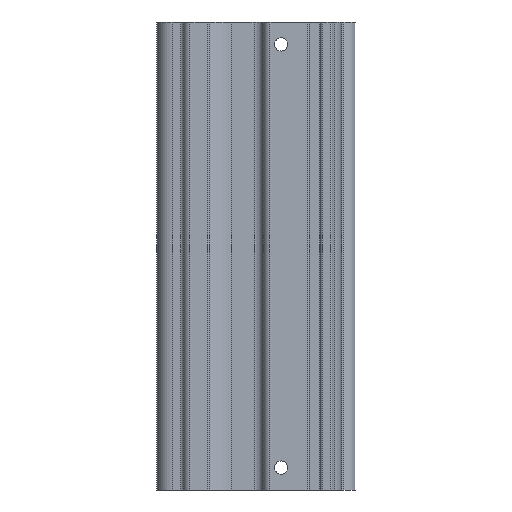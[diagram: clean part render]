
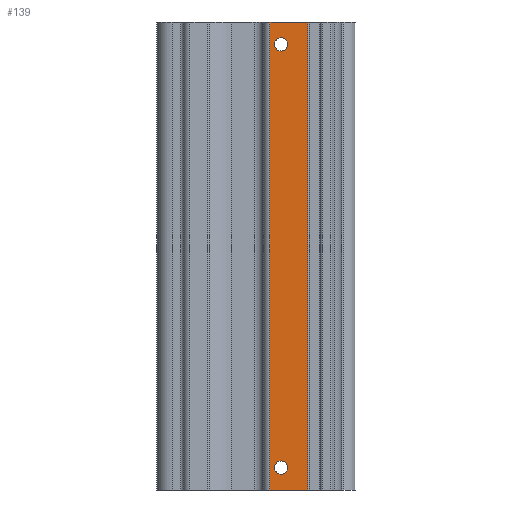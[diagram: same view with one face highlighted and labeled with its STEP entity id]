
A CAD part, front view. The second image highlights one B-rep face of the part: STEP entity #139.
In plain terms, the highlighted planar face has unit normal (0, -1, 0).
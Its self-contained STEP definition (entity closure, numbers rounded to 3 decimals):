
#139 = ADVANCED_FACE ( 'NONE', ( #13490, #13489, #13487 ), #669, .F. ) ;
#187 = EDGE_CURVE ( 'NONE', #7288, #7283, #9615, .T. ) ;
#202 = EDGE_CURVE ( 'NONE', #3918, #3918, #9646, .T. ) ;
#281 = EDGE_CURVE ( 'NONE', #3951, #3951, #6608, .T. ) ;
#296 = EDGE_CURVE ( 'NONE', #7288, #7205, #9581, .T. ) ;
#534 = EDGE_CURVE ( 'NONE', #7283, #7263, #8988, .T. ) ;
#656 = EDGE_CURVE ( 'NONE', #7263, #7205, #5781, .T. ) ;
#662 = CARTESIAN_POINT ( 'NONE',  ( -5.1, -17., -146.6 ) ) ;
#663 = DIRECTION ( 'NONE',  ( 0., 1., 0. ) ) ;
#669 = PLANE ( 'NONE',  #16281 ) ;
#794 = DIRECTION ( 'NONE',  ( 0., 0., 1. ) ) ;
#958 = DIRECTION ( 'NONE',  ( 0., 0., 1. ) ) ;
#959 = DIRECTION ( 'NONE',  ( 0., 1., 0. ) ) ;
#960 = CARTESIAN_POINT ( 'NONE',  ( 10., -17., -7. ) ) ;
#1373 = DIRECTION ( 'NONE',  ( 0., 0., 1. ) ) ;
#2099 = CARTESIAN_POINT ( 'NONE',  ( 18.4, -17., -146.6 ) ) ;
#2160 = EDGE_LOOP ( 'NONE', ( #4737, #4736, #4735, #4732 ) ) ;
#2399 = EDGE_LOOP ( 'NONE', ( #4739 ) ) ;
#2720 = EDGE_LOOP ( 'NONE', ( #4738 ) ) ;
#3408 = CARTESIAN_POINT ( 'NONE',  ( 10., -17., -139.6 ) ) ;
#3409 = DIRECTION ( 'NONE',  ( 0., 1., 0. ) ) ;
#3410 = DIRECTION ( 'NONE',  ( 0., 0., 1. ) ) ;
#3497 = CARTESIAN_POINT ( 'NONE',  ( -5.1, -17., -146.6 ) ) ;
#3498 = DIRECTION ( 'NONE',  ( -1., 0., 0. ) ) ;
#3918 = VERTEX_POINT ( 'NONE', #5438 ) ;
#3951 = VERTEX_POINT ( 'NONE', #5460 ) ;
#4732 = ORIENTED_EDGE ( 'NONE', *, *, #656, .T. ) ;
#4735 = ORIENTED_EDGE ( 'NONE', *, *, #534, .T. ) ;
#4736 = ORIENTED_EDGE ( 'NONE', *, *, #187, .T. ) ;
#4737 = ORIENTED_EDGE ( 'NONE', *, *, #296, .F. ) ;
#4738 = ORIENTED_EDGE ( 'NONE', *, *, #202, .T. ) ;
#4739 = ORIENTED_EDGE ( 'NONE', *, *, #281, .T. ) ;
#5438 = CARTESIAN_POINT ( 'NONE',  ( 10., -17., -4.9 ) ) ;
#5460 = CARTESIAN_POINT ( 'NONE',  ( 10., -17., -137.5 ) ) ;
#5781 = LINE ( 'NONE', #11602, #6344 ) ;
#6344 = VECTOR ( 'NONE', #11595, 1000. ) ;
#6608 = CIRCLE ( 'NONE', #15927, 2.1 ) ;
#7205 = VERTEX_POINT ( 'NONE', #12173 ) ;
#7263 = VERTEX_POINT ( 'NONE', #12200 ) ;
#7283 = VERTEX_POINT ( 'NONE', #12214 ) ;
#7288 = VERTEX_POINT ( 'NONE', #12219 ) ;
#8986 = VECTOR ( 'NONE', #10276, 1000. ) ;
#8988 = LINE ( 'NONE', #10275, #8986 ) ;
#9581 = LINE ( 'NONE', #3497, #9590 ) ;
#9590 = VECTOR ( 'NONE', #3498, 1000. ) ;
#9615 = LINE ( 'NONE', #2099, #9619 ) ;
#9619 = VECTOR ( 'NONE', #1373, 1000. ) ;
#9646 = CIRCLE ( 'NONE', #16190, 2.1 ) ;
#10275 = CARTESIAN_POINT ( 'NONE',  ( -5.1, -17., 0. ) ) ;
#10276 = DIRECTION ( 'NONE',  ( -1., 0., 0. ) ) ;
#11595 = DIRECTION ( 'NONE',  ( 0., 0., -1. ) ) ;
#11602 = CARTESIAN_POINT ( 'NONE',  ( 6.5, -17., -146.6 ) ) ;
#12173 = CARTESIAN_POINT ( 'NONE',  ( 6.5, -17., -146.6 ) ) ;
#12200 = CARTESIAN_POINT ( 'NONE',  ( 6.5, -17., 0. ) ) ;
#12214 = CARTESIAN_POINT ( 'NONE',  ( 18.4, -17., 0. ) ) ;
#12219 = CARTESIAN_POINT ( 'NONE',  ( 18.4, -17., -146.6 ) ) ;
#13487 = FACE_OUTER_BOUND ( 'NONE', #2160, .T. ) ;
#13489 = FACE_BOUND ( 'NONE', #2720, .T. ) ;
#13490 = FACE_BOUND ( 'NONE', #2399, .T. ) ;
#15927 = AXIS2_PLACEMENT_3D ( 'NONE', #3408, #3409, #3410 ) ;
#16190 = AXIS2_PLACEMENT_3D ( 'NONE', #960, #959, #958 ) ;
#16281 = AXIS2_PLACEMENT_3D ( 'NONE', #662, #663, #794 ) ;
